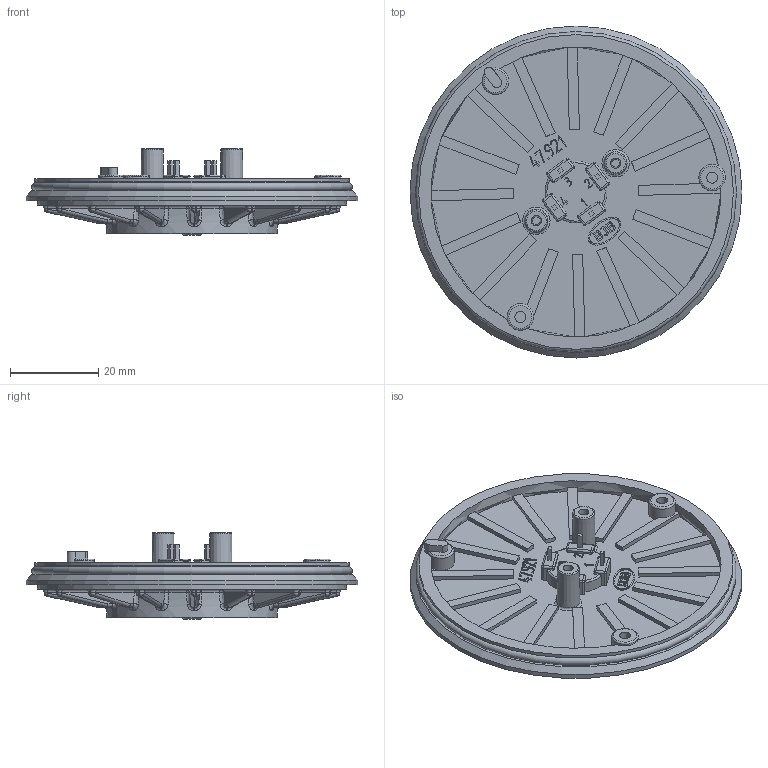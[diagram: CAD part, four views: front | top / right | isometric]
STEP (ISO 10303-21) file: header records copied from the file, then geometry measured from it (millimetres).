
FILE_DESCRIPTION(/* description */ ('Unknown'),/* implementation_level */ '2;1');
FILE_NAME(/* name */ '022-K00-0D',/* time_stamp */ '2025-08-13T13:06:31+02:00',/* author */ ('Unknown'),/* organization */ ('Unknown'),/* preprocessor_version */ 'ST-DEVELOPER v16.7',/* originating_system */ 'Solid Edge',/* authorisation */ 'Unknown');
FILE_SCHEMA (('AUTOMOTIVE_DESIGN {1 0 10303 214 3 1 1}'));
Length unit declared in the file: millimetre
Products named in the file (4): 022-K00-0D; 022-K00-01; 022-K00-0E; 022-K00-07
Assembly tree (6 placements, depth 2):
  022-K00-0D
    022-K00-01  x4
    022-K00-0E
    022-K00-07
Bounding box: 75.2 x 75.2 x 19.7 mm (x, y, z)
Volume: 19893.5 mm3; surface area: 17032.6 mm2
Topology: 6 solids, 6 shells, 1017 faces, 2511 edges, 1459 vertices
Faces by surface type: plane 458, cylinder 282, bspline 114, sphere 112, torus 44, cone 7
Full cylindrical faces by diameter (mm): 2.459 x2, 4.75 x1, 6 x2, 8.65 x1, 38.7 x1, 69.3 x1, 70 x1, 71.3 x1, 75.2 x1
Entity records: 27260 total; most frequent: CARTESIAN_POINT 6748, DIRECTION 4327, ORIENTED_EDGE 4226, EDGE_CURVE 2113, AXIS2_PLACEMENT_3D 1673, VERTEX_POINT 1266, FACE_BOUND 983, EDGE_LOOP 982
